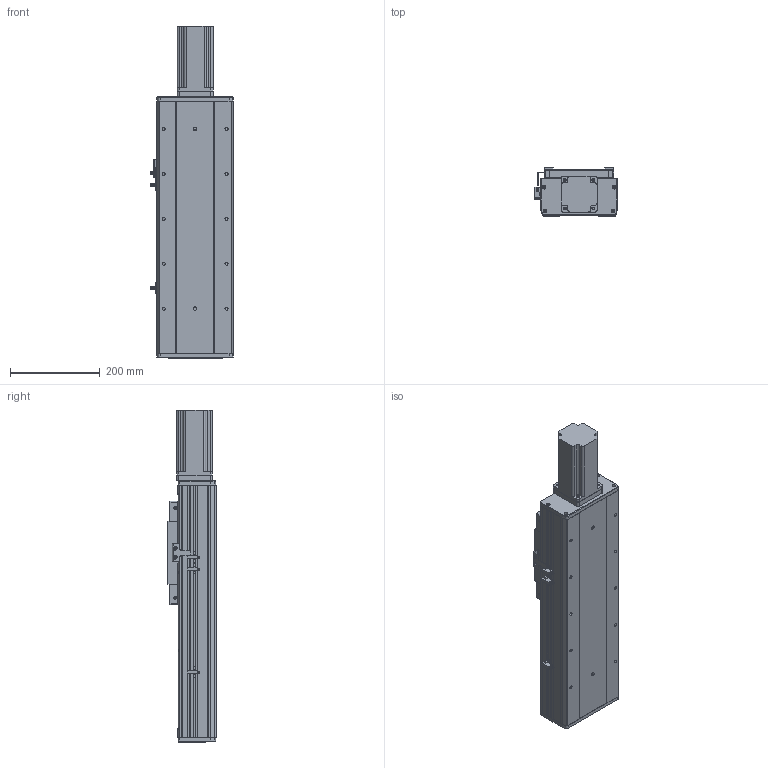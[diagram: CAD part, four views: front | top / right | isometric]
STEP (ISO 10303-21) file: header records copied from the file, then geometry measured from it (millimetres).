
FILE_DESCRIPTION (( 'STEP AP203' ), '1' );
FILE_NAME ('RY170F-L2020-300-MK.SLDASM_250.step', '2021-03-02T06:30:57', ( '盈信电脑' ), ( '东莞市道滘镇水果街19号' ), 'SwSTEP 2.0', 'SolidWorks 2012', '' );
FILE_SCHEMA (( 'CONFIG_CONTROL_DESIGN' ));
Length unit declared in the file: millimetre
Products named in the file (22): 侐源滅袉蝶; RY170F-L2020-300-MK.SLDASM_250; 怢湛750W萇儂ㄗ80遺ㄘ; 覜茼ん674; RY170F-揤踡謫假蚾粣; RY170F-詩湍揤踡輸; 滅袉蝶18-24; 750W萇儂梓袧蛌諉啣; RY170F俋离覜茼え; RY170F-后盖板(铝件）; 覜茼ん672; RY100F-詩湍揤踡謫; RY170F-直连前盖板(铝件）; 滅袉蝶18-10; 侂狟400W侜督萇儂; 15; RY170F-滅鳥奻裔; RY170F-佪裝臏賑輸20蹟譫; RY170F-丝杆铝滑块连接板; RY170F-300眻蟀倰第菁釱-MK_250; RY170F-300眻蟀倰第奻裔啣-MK_250; RY170F-300眻蟀祥凄詩湍-MK_250
Assembly tree (26 placements, depth 3):
  RY170F-L2020-300-MK.SLDASM_250
    RY170F-300眻蟀倰第菁釱-MK_250
    RY170F-300眻蟀祥凄詩湍-MK_250
    RY170F-300眻蟀倰第奻裔啣-MK_250  x2
    RY170F-滅鳥奻裔
    RY170F-佪裝臏賑輸20蹟譫
    RY170F-丝杆铝滑块连接板
    侂狟400W侜督萇儂
      15
    RY170F-直连前盖板(铝件）
    滅袉蝶18-10
    RY100F-詩湍揤踡謫
    RY170F-后盖板(铝件）
    覜茼ん672  x3
    RY170F俋离覜茼え
    RY170F-揤踡謫假蚾粣
    RY170F-詩湍揤踡輸  x2
    滅袉蝶18-24
    750W萇儂梓袧蛌諉啣
    怢湛750W萇儂ㄗ80遺ㄘ
    侐源滅袉蝶  x2
    覜茼ん674
Bounding box: 183.7 x 107 x 739 mm (x, y, z)
Volume: 4669552.5 mm3; surface area: 1306155.5 mm2
Topology: 25 solids, 25 shells, 2176 faces, 6003 edges, 3860 vertices
Faces by surface type: plane 1001, cylinder 953, cone 204, bspline 18
Entity records: 63823 total; most frequent: CARTESIAN_POINT 12659, DIRECTION 10421, ORIENTED_EDGE 10014, EDGE_CURVE 5007, AXIS2_PLACEMENT_3D 3688, VERTEX_POINT 3280, VECTOR 3045, LINE 3045
